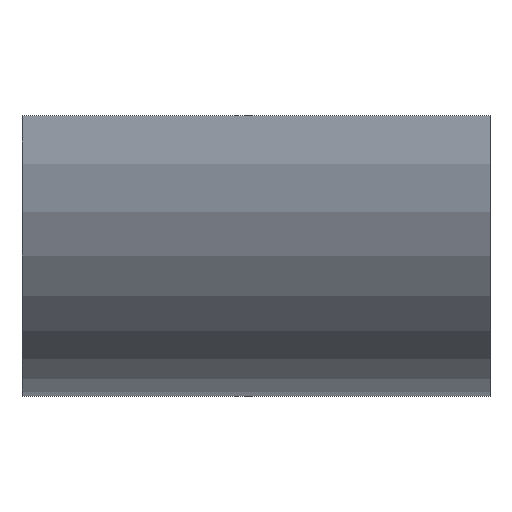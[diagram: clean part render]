
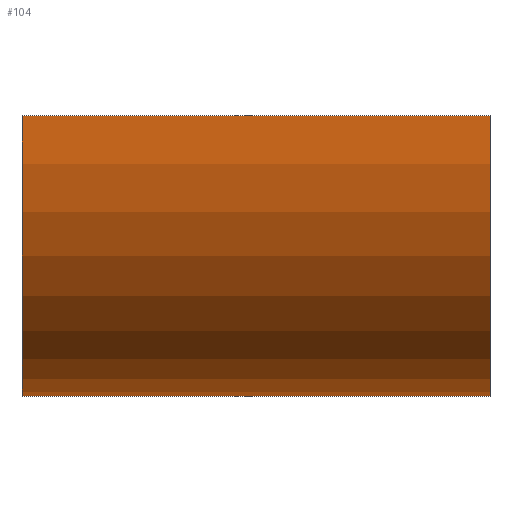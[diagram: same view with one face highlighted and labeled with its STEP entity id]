
A CAD part, front view. The second image highlights one B-rep face of the part: STEP entity #104.
In plain terms, the highlighted cylindrical face has radius 0.12 mm (diameter 0.24 mm), a partial arc.
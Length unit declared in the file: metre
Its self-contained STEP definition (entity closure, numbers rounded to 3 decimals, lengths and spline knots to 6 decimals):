
#12=CYLINDRICAL_SURFACE('',#162,0.00012);
#13=CIRCLE('',#159,0.00012);
#14=CIRCLE('',#161,0.00012);
#23=ORIENTED_EDGE('',*,*,#47,.T.);
#24=ORIENTED_EDGE('',*,*,#42,.T.);
#25=ORIENTED_EDGE('',*,*,#48,.F.);
#26=ORIENTED_EDGE('',*,*,#43,.F.);
#42=EDGE_CURVE('',#51,#54,#13,.T.);
#43=EDGE_CURVE('',#55,#56,#14,.T.);
#47=EDGE_CURVE('',#55,#51,#65,.T.);
#48=EDGE_CURVE('',#56,#54,#66,.T.);
#51=VERTEX_POINT('',#197);
#54=VERTEX_POINT('',#202);
#55=VERTEX_POINT('',#206);
#56=VERTEX_POINT('',#207);
#65=LINE('',#214,#75);
#66=LINE('',#215,#76);
#75=VECTOR('',#184,1.);
#76=VECTOR('',#185,1.);
#81=EDGE_LOOP('',(#23,#24,#25,#26));
#87=FACE_BOUND('',#81,.T.);
#104=ADVANCED_FACE('',(#87),#12,.T.);
#159=AXIS2_PLACEMENT_3D('',#203,#173,#174);
#161=AXIS2_PLACEMENT_3D('',#205,#177,#178);
#162=AXIS2_PLACEMENT_3D('',#213,#182,#183);
#173=DIRECTION('',(1.,0.,0.));
#174=DIRECTION('',(0.,1.,0.));
#177=DIRECTION('',(1.,0.,0.));
#178=DIRECTION('',(0.,1.,0.));
#182=DIRECTION('',(1.,0.,0.));
#183=DIRECTION('',(0.,1.,0.));
#184=DIRECTION('',(-1.,0.,0.));
#185=DIRECTION('',(-1.,0.,0.));
#197=CARTESIAN_POINT('',(0.16733,-0.122295,0.001715));
#202=CARTESIAN_POINT('',(0.16733,-0.122175,0.001595));
#203=CARTESIAN_POINT('',(0.16733,-0.122175,0.001715));
#205=CARTESIAN_POINT('',(0.16753,-0.122175,0.001715));
#206=CARTESIAN_POINT('',(0.16753,-0.122295,0.001715));
#207=CARTESIAN_POINT('',(0.16753,-0.122175,0.001595));
#213=CARTESIAN_POINT('',(0.16753,-0.122175,0.001715));
#214=CARTESIAN_POINT('',(0.16753,-0.122295,0.001715));
#215=CARTESIAN_POINT('',(0.16753,-0.122175,0.001595));
